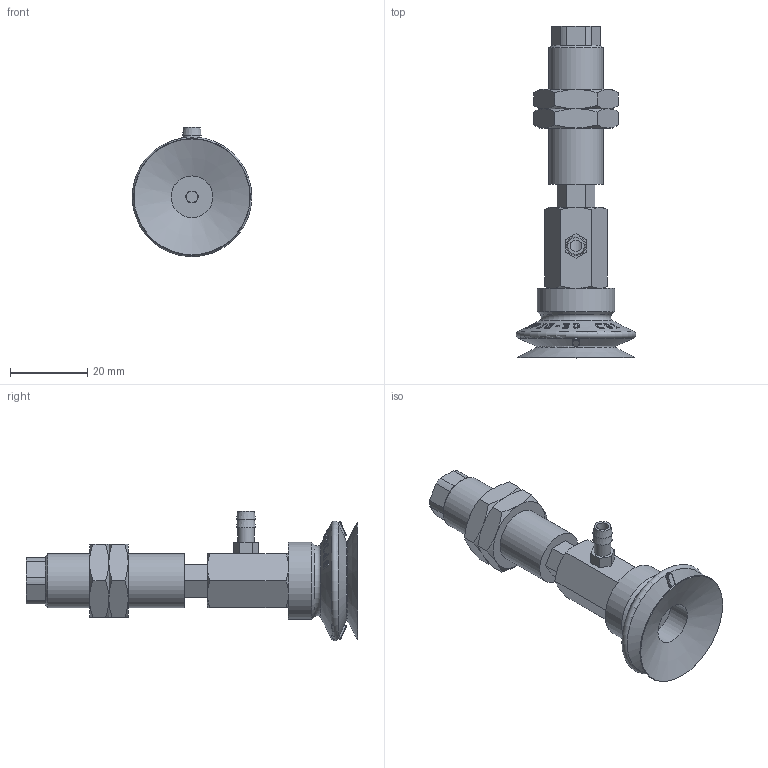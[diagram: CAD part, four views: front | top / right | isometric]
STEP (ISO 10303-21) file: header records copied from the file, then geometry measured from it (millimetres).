
FILE_DESCRIPTION(('STEP AP214'),'1');
FILE_NAME('-T.stp','2026-01-21T07:04:37',(' '),(' '),'Spatial InterOp 3D',' ',' ');
FILE_SCHEMA(('AUTOMOTIVE_DESIGN { 1 0 10303 214 1 1 1 1 }'));
Length unit declared in the file: millimetre
Products named in the file (8): BNABPJYH-30-6-※-T; T; BPJG-30-※; Adapter-30-NAPJ; CONNECTOR_H-30-6; NAPJH-30-6-NUT; NAPJYH-30-6-FBODY; NAPJYH-30-6-MBODY
Assembly tree (8 placements, depth 2):
  BNABPJYH-30-6-※-T
    T
    BPJG-30-※
    Adapter-30-NAPJ
    CONNECTOR_H-30-6
    NAPJH-30-6-NUT  x2
    NAPJYH-30-6-FBODY
    NAPJYH-30-6-MBODY
Bounding box: 30.99 x 86 x 33.5 mm (x, y, z)
Volume: 17427.4 mm3; surface area: 12858.4 mm2
Topology: 8 solids, 8 shells, 810 faces, 2232 edges, 1465 vertices
Faces by surface type: plane 699, cone 73, cylinder 31, torus 7
Full cylindrical faces by diameter (mm): 3 x3, 4.134 x2, 4.3 x1, 4.917 x1, 5 x2, 5.8 x1, 6 x1, 10.8 x1, 11 x1, 13.188 x2, 14 x1, 20 x1
Entity records: 32307 total; most frequent: CARTESIAN_POINT 7921, ORIENTED_EDGE 4282, DIRECTION 2763, EDGE_CURVE 2141, VERTEX_POINT 1432, B_SPLINE_CURVE_WITH_KNOTS 1083, LINE 945, VECTOR 945
